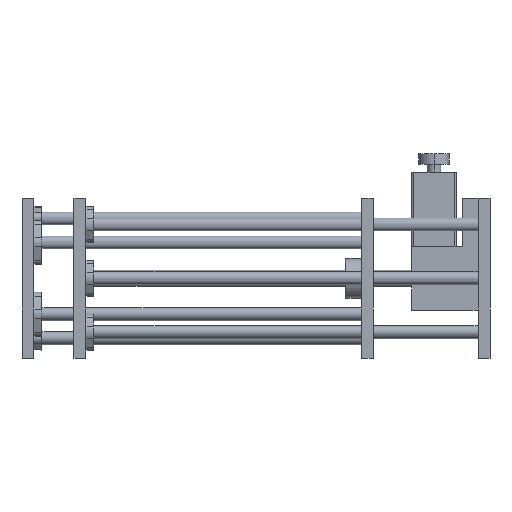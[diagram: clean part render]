
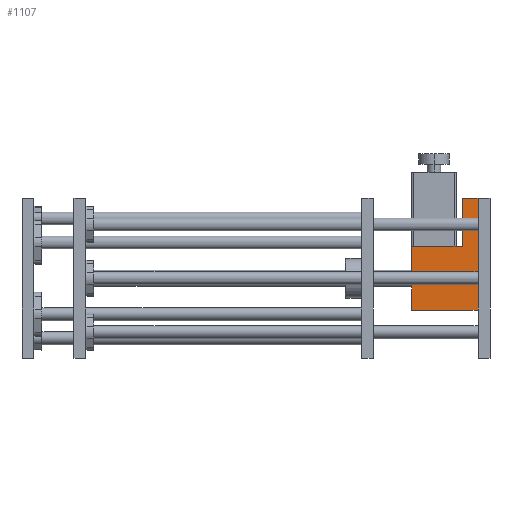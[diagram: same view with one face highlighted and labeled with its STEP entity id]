
A CAD part, left-side view. The second image highlights one B-rep face of the part: STEP entity #1107.
In plain terms, the highlighted planar face has unit normal (-1, 0, 0).
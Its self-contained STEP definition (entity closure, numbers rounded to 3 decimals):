
#23 = CARTESIAN_POINT ( 'NONE',  ( -40., -563.5, 100. ) ) ;
#227 = EDGE_CURVE ( 'NONE', #11299, #8621, #7715, .T. ) ;
#690 = VERTEX_POINT ( 'NONE', #8611 ) ;
#832 = LINE ( 'NONE', #13358, #19076 ) ;
#1107 = ADVANCED_FACE ( 'NONE', ( #4188 ), #18360, .F. ) ;
#1447 = DIRECTION ( 'NONE',  ( 0., 0., 1. ) ) ;
#2962 = CARTESIAN_POINT ( 'NONE',  ( -40., -480.5, -40. ) ) ;
#3519 = DIRECTION ( 'NONE',  ( 0., -1., 0. ) ) ;
#3661 = EDGE_CURVE ( 'NONE', #8621, #690, #21437, .T. ) ;
#3881 = EDGE_CURVE ( 'NONE', #25575, #17129, #17318, .T. ) ;
#4188 = FACE_OUTER_BOUND ( 'NONE', #16554, .T. ) ;
#4541 = VECTOR ( 'NONE', #3519, 1000. ) ;
#5418 = CARTESIAN_POINT ( 'NONE',  ( -40., -480.5, 40. ) ) ;
#7715 = LINE ( 'NONE', #15579, #4541 ) ;
#7731 = AXIS2_PLACEMENT_3D ( 'NONE', #8231, #14298, #22522 ) ;
#8231 = CARTESIAN_POINT ( 'NONE',  ( -40., -480.5, 40. ) ) ;
#8502 = ORIENTED_EDGE ( 'NONE', *, *, #3661, .F. ) ;
#8611 = CARTESIAN_POINT ( 'NONE',  ( -40., -543.5, 100. ) ) ;
#8621 = VERTEX_POINT ( 'NONE', #18429 ) ;
#9407 = DIRECTION ( 'NONE',  ( 0., -1., 0. ) ) ;
#9429 = CARTESIAN_POINT ( 'NONE',  ( -40., -563.5, 40. ) ) ;
#10112 = DIRECTION ( 'NONE',  ( 0., 0., 1. ) ) ;
#10853 = DIRECTION ( 'NONE',  ( 0., -1., 0. ) ) ;
#11299 = VERTEX_POINT ( 'NONE', #5418 ) ;
#11845 = CARTESIAN_POINT ( 'NONE',  ( -40., -543.5, 37. ) ) ;
#13089 = ORIENTED_EDGE ( 'NONE', *, *, #13701, .F. ) ;
#13358 = CARTESIAN_POINT ( 'NONE',  ( -40., -563.5, 100. ) ) ;
#13701 = EDGE_CURVE ( 'NONE', #25575, #11299, #16284, .T. ) ;
#14298 = DIRECTION ( 'NONE',  ( 1., 0., 0. ) ) ;
#14339 = CARTESIAN_POINT ( 'NONE',  ( -40., -480.5, 40. ) ) ;
#15171 = ORIENTED_EDGE ( 'NONE', *, *, #227, .F. ) ;
#15579 = CARTESIAN_POINT ( 'NONE',  ( -40., -480.5, 40. ) ) ;
#16082 = VECTOR ( 'NONE', #17499, 1000. ) ;
#16190 = ORIENTED_EDGE ( 'NONE', *, *, #3881, .T. ) ;
#16284 = LINE ( 'NONE', #14339, #16919 ) ;
#16554 = EDGE_LOOP ( 'NONE', ( #21103, #22153, #8502, #15171, #13089, #16190 ) ) ;
#16919 = VECTOR ( 'NONE', #10112, 1000. ) ;
#17129 = VERTEX_POINT ( 'NONE', #19414 ) ;
#17318 = LINE ( 'NONE', #2962, #17961 ) ;
#17499 = DIRECTION ( 'NONE',  ( 0., 0., 1. ) ) ;
#17961 = VECTOR ( 'NONE', #10853, 1000. ) ;
#18360 = PLANE ( 'NONE',  #7731 ) ;
#18429 = CARTESIAN_POINT ( 'NONE',  ( -40., -543.5, 40. ) ) ;
#19076 = VECTOR ( 'NONE', #9407, 1000. ) ;
#19414 = CARTESIAN_POINT ( 'NONE',  ( -40., -563.5, -40. ) ) ;
#20705 = CARTESIAN_POINT ( 'NONE',  ( -40., -480.5, -40. ) ) ;
#20837 = LINE ( 'NONE', #9429, #21491 ) ;
#21021 = VERTEX_POINT ( 'NONE', #23 ) ;
#21103 = ORIENTED_EDGE ( 'NONE', *, *, #25637, .T. ) ;
#21437 = LINE ( 'NONE', #11845, #16082 ) ;
#21491 = VECTOR ( 'NONE', #1447, 1000. ) ;
#22153 = ORIENTED_EDGE ( 'NONE', *, *, #23034, .F. ) ;
#22522 = DIRECTION ( 'NONE',  ( 0., 0., -1. ) ) ;
#23034 = EDGE_CURVE ( 'NONE', #690, #21021, #832, .T. ) ;
#25575 = VERTEX_POINT ( 'NONE', #20705 ) ;
#25637 = EDGE_CURVE ( 'NONE', #17129, #21021, #20837, .T. ) ;
